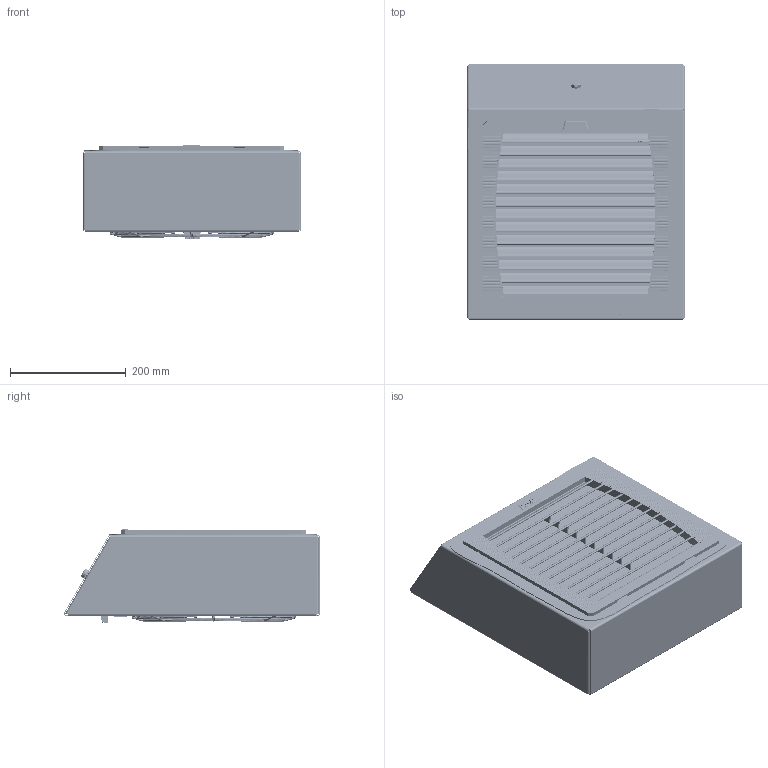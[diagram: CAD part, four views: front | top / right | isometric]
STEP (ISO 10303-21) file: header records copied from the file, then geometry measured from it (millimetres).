
FILE_DESCRIPTION (( 'STEP AP203' ), '1' );
FILE_NAME ('DPF67000.STEP', '2020-09-02T15:44:17', ( '' ), ( '' ), 'SwSTEP 2.0', 'SolidWorks 2018', '' );
FILE_SCHEMA (( 'CONFIG_CONTROL_DESIGN' ));
Products named in the file (1): DPF67000
Bounding box: 377 x 443.36 x 161.59 mm (x, y, z)
Volume: 4312119 mm3; surface area: 3264154 mm2
Topology: 47 solids, 47 shells, 16418 faces, 46203 edges, 29148 vertices
Faces by surface type: plane 9760, bspline 2854, cylinder 2500, torus 783, cone 464, sphere 57
Entity records: 749483 total; most frequent: CARTESIAN_POINT 351588, ORIENTED_EDGE 90716, DIRECTION 68794, EDGE_CURVE 45358, LINE 30178, VECTOR 30178, VERTEX_POINT 29128, AXIS2_PLACEMENT_3D 19308
